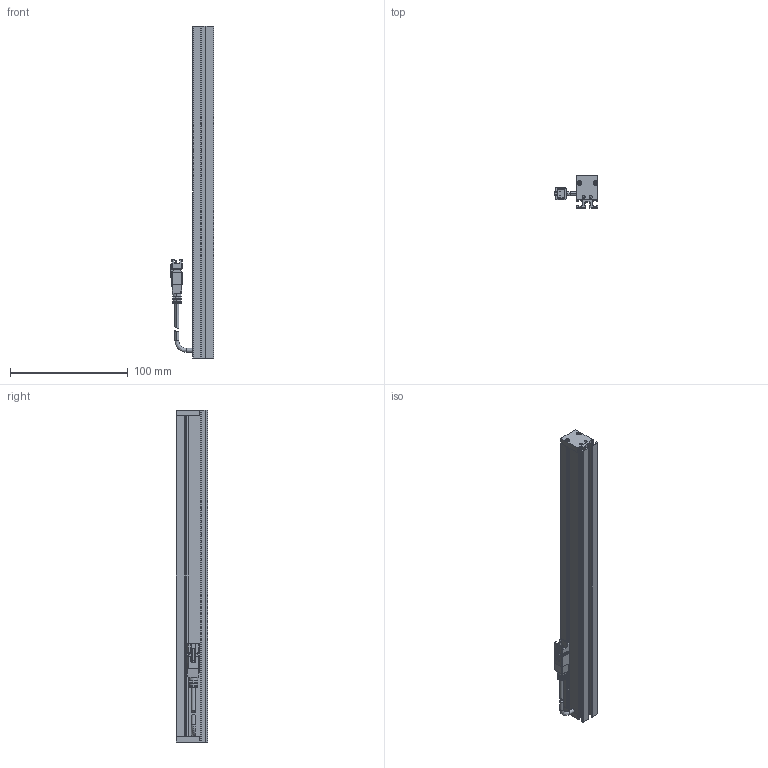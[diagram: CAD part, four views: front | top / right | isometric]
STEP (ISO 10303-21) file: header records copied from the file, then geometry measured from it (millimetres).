
FILE_DESCRIPTION (( 'STEP AP203' ), '1' );
FILE_NAME ('CK-BL28218.STEP', '2025-12-26T08:02:24', ( '' ), ( '' ), 'SwSTEP 2.0', 'SolidWorks 2022', '' );
FILE_SCHEMA (( 'CONFIG_CONTROL_DESIGN' ));
Length unit declared in the file: millimetre
Products named in the file (6): CK-BL28218-001A; 光源线-01; CK-BL28218-002A; CK-BL28218-003A; CK-BL28218; 十字沉头螺丝 M2x10
Assembly tree (9 placements, depth 2):
  CK-BL28218
    CK-BL28218-001A
    CK-BL28218-002A  x2
    CK-BL28218-003A
    光源线-01
    十字沉头螺丝 M2x10  x4
Bounding box: 37.34 x 27 x 282 mm (x, y, z)
Volume: 65623.7 mm3; surface area: 64795.3 mm2
Topology: 11 solids, 11 shells, 474 faces, 1231 edges, 780 vertices
Faces by surface type: plane 271, cylinder 149, cone 34, bspline 20
Entity records: 12442 total; most frequent: CARTESIAN_POINT 2514, ORIENTED_EDGE 1936, DIRECTION 1916, EDGE_CURVE 968, LINE 668, VECTOR 668, VERTEX_POINT 626, AXIS2_PLACEMENT_3D 624
